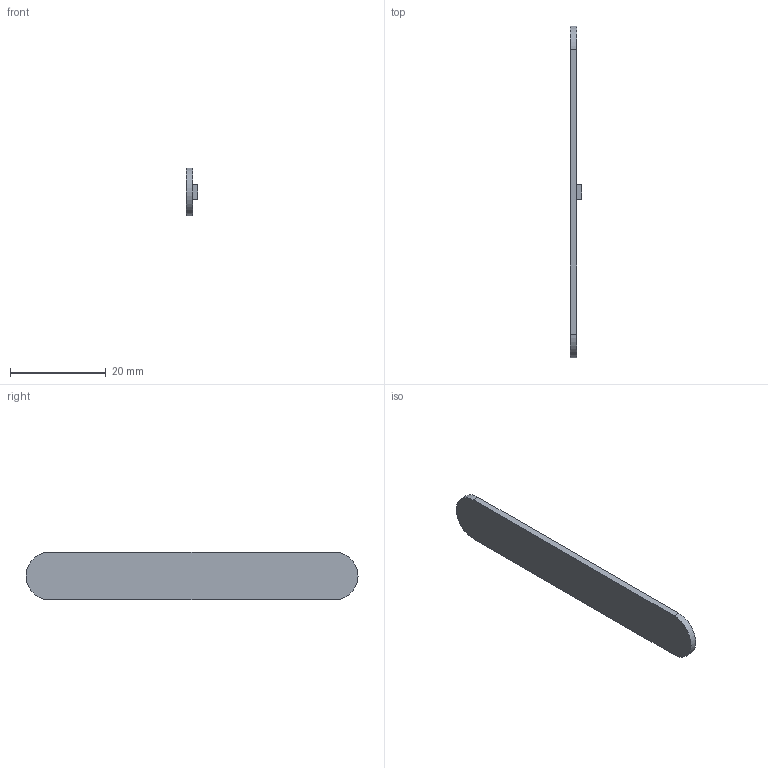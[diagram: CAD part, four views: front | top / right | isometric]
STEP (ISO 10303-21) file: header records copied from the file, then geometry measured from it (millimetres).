
FILE_DESCRIPTION(('Open CASCADE Model'),'2;1');
FILE_NAME('Open CASCADE Shape Model','2026-09-08T16:14:22',('Author'),( 'Open CASCADE'),'Open CASCADE STEP processor 7.7','Open CASCADE 7.7' ,'Unknown');
FILE_SCHEMA(('AUTOMOTIVE_DESIGN { 1 0 10303 214 1 1 1 1 }'));
Length unit declared in the file: millimetre
Products named in the file (1): Open CASCADE STEP translator 7.7 26
Bounding box: 2.5 x 69.4 x 10 mm (x, y, z)
Volume: 951.5 mm3; surface area: 1568.6 mm2
Topology: 1 solids, 1 shells, 11 faces, 24 edges, 16 vertices
Faces by surface type: plane 9, cylinder 2
Entity records: 624 total; most frequent: CARTESIAN_POINT 100, DIRECTION 100, LINE 64, VECTOR 64, ORIENTED_EDGE 48, PCURVE 48, DEFINITIONAL_REPRESENTATION 48, EDGE_CURVE 24
